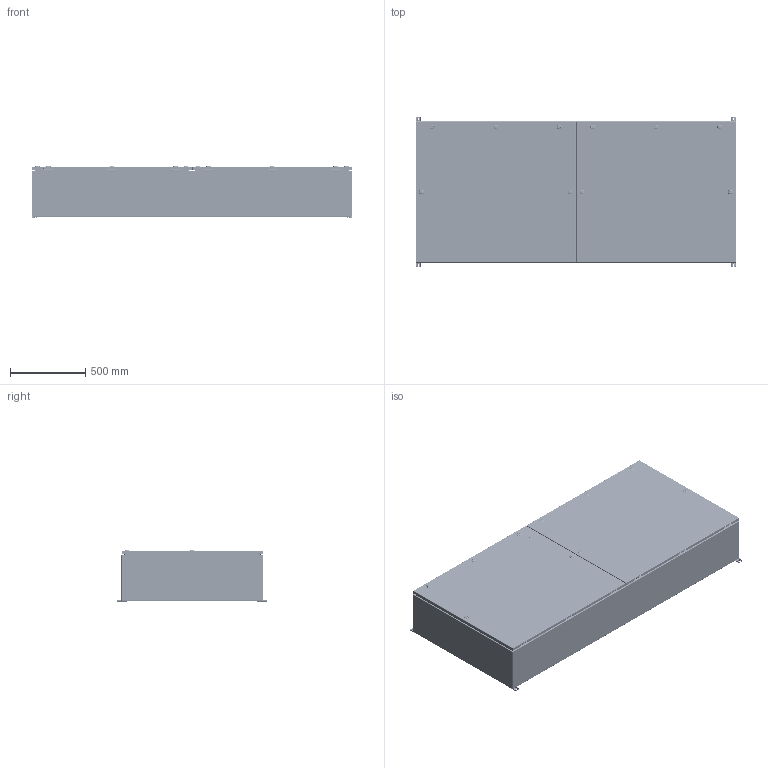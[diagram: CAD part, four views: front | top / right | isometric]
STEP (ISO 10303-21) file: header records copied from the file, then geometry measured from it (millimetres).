
FILE_DESCRIPTION(/* description */ ('1412BTSSCU 2000A - 4 Wires x 84" Assembly'),/* implementation_level */ '2;1');
FILE_NAME(/* name */ 'C:\Vault_Workspace\Inventor_Dwg\BoxCad\Result\1412BTSSCU072004\e-mail\3D\1412BTSSCU072004.stp',/* time_stamp */ '2022-09-20T18:57:46-04:00',/* author */ ('BoxCad'),/* organization */ (''),/* preprocessor_version */ 'ST-DEVELOPER v18.1',/* originating_system */ 'Autodesk Inventor 2020',/* authorisation */ '');
FILE_SCHEMA (('AUTOMOTIVE_DESIGN { 1 0 10303 214 3 1 1 }'));
Products named in the file (67): 1412BTSSCU072004; 1412BTSSCU072004B; 1412BTSSCU072004B-P; 1412BTSSCU072004E-P; STK-Q-16020; iLogic_STK-G-00701; STK-Q-00260; STK-Q-07220-1; STK-Q-07220-A; STK-Q-07220-B; 1412BTSSCU072004C; 1412BTSSCU072004C-P; 1412BTSSCU072004F-P; 1412BTSSCU072004G; STK-Q-16095; STK-K-09850-1; STK-Q-33019; STK-Q-90111; STK-Q-40096; STK-Q-63412; STK-S-00100; STK-A-880SCQ4-SLSS6-1; STK-A-880SCQ4-SLSS6-2; STK-A-880SCQ4-SLSS6-3; STK-A-880SCQ4-SLSS6-4; STK-A-880SCQ4-SLSS6-5; STK-A-880SCQ4-SLSS6-6; STK-A-880SCQ4-SLSS6-7; STK-A-880SCQ4-SLSS6-8; STK-A-880SCQ4-SLSS6-9; STK-A-880SCQ4-SLSS6-10; STK-Q-70621; STK-Q-70631; STK-Q-78145; STK-Q-03200; STK-Q-78125; STK-Q-90390; STK-Q-78160; STK-Q-78141; 1412BTSSCU072004IP1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
Assembly tree (230 placements, depth 4):
  1412BTSSCU072004
    1412BTSSCU072004B
      1412BTSSCU072004B-P
      1412BTSSCU072004E-P
      STK-Q-16095  x2
      STK-Q-16020  x10
      iLogic_STK-G-00701
      STK-Q-00260  x10
      STK-Q-07220-1  x10
        STK-Q-07220-A
        STK-Q-07220-B
      STK-S-00100
    1412BTSSCU072004C
      1412BTSSCU072004C-P
      1412BTSSCU072004F-P
      1412BTSSCU072004G  x2
      STK-Q-16095  x2
      STK-K-09850-1  x6
        STK-Q-33019
        STK-Q-90111
        STK-Q-40096
        STK-Q-63412
      STK-S-00100
      STK-A-880SCQ4-SLSS6-1
        STK-Q-70621
        STK-Q-70631
        STK-Q-78145
        STK-Q-03200
        STK-Q-78125
        STK-Q-90390
        STK-Q-78160
        STK-Q-78141
      STK-A-880SCQ4-SLSS6-2
        STK-Q-70621
        STK-Q-70631
        STK-Q-78145
        STK-Q-03200
        STK-Q-78125
        STK-Q-90390
        STK-Q-78160
        STK-Q-78141
      STK-A-880SCQ4-SLSS6-3
        STK-Q-70621
        STK-Q-70631
        STK-Q-78145
        STK-Q-03200
        STK-Q-78125
        STK-Q-90390
        STK-Q-78160
        STK-Q-78141
      STK-A-880SCQ4-SLSS6-4
        STK-Q-70621
        STK-Q-70631
        STK-Q-78145
        STK-Q-03200
        STK-Q-78125
        STK-Q-90390
        STK-Q-78160
        STK-Q-78141
      STK-A-880SCQ4-SLSS6-5
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Bounding box: 2133.6 x 996.95 x 345 mm (x, y, z)
Volume: 24666412.4 mm3; surface area: 17417886.9 mm2
Topology: 314 solids, 314 shells, 44390 faces, 116622 edges, 72964 vertices
Faces by surface type: plane 17078, bspline 12256, cylinder 10632, torus 2942, sphere 922, cone 560
Full cylindrical faces by diameter (mm): 0.75 x14, 0.762 x14, 1 x24, 1.1 x24, 3.2 x12, 4.5 x48, 4.85 x48, 4.917 x6, 4.95 x12, 5 x10, 5.1 x140, 5.9 x266, 6.65 x12, 6.655 x10, 6.8 x10, 6.85 x80, 7.366 x14, 7.8 x492, 8 x56, 8.25 x24, 8.6 x12, 9.5 x10, 9.6 x10, 9.7 x48, 9.906 x4, 10 x16, 10.312 x2, 11.5 x24, 12 x18, 12.8 x10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
Entity records: 230796 total; most frequent: CARTESIAN_POINT 89712, ORIENTED_EDGE 31186, DIRECTION 25041, EDGE_CURVE 15593, VERTEX_POINT 9970, AXIS2_PLACEMENT_3D 8549, LINE 7943, VECTOR 7943
